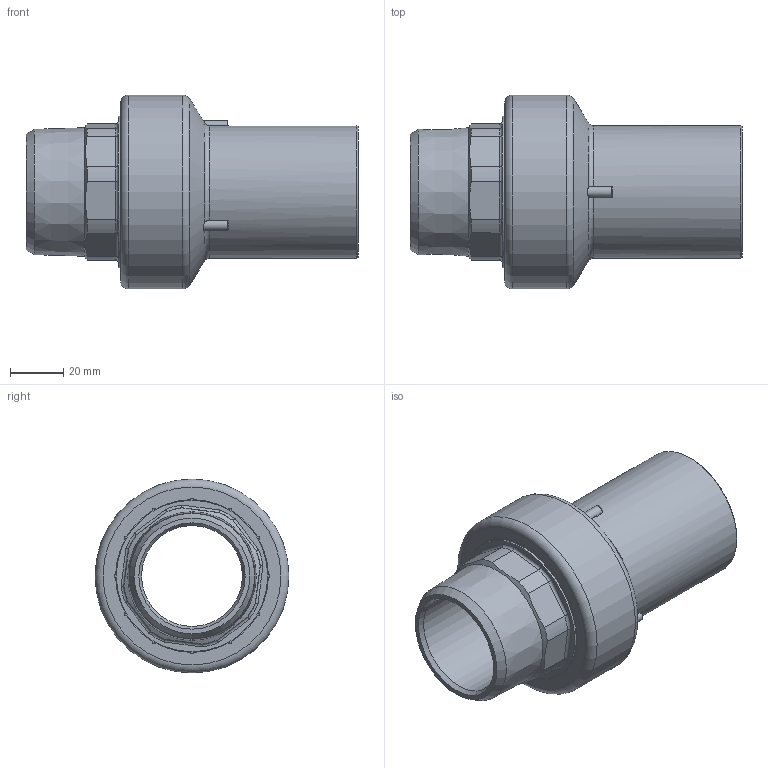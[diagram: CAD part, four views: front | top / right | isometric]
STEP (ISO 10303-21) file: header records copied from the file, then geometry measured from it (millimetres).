
FILE_DESCRIPTION(/* description */ ('Unknown'),/* implementation_level */ '2;1');
FILE_NAME(/* name */ 'RTOMP050C',/* time_stamp */ '2021-03-01T17:22:13+01:00',/* author */ ('Unknown'),/* organization */ ('Unknown'),/* preprocessor_version */ 'ST-DEVELOPER v16.7',/* originating_system */ 'Solid Edge',/* authorisation */ 'Unknown');
FILE_SCHEMA (('AUTOMOTIVE_DESIGN {1 0 10303 214 3 1 1}'));
Length unit declared in the file: millimetre
Products named in the file (3): RTOMP050C; Parte PE 050; IOM050C
Assembly tree (2 placements, depth 2):
  RTOMP050C
    Parte PE 050
    IOM050C
Bounding box: 125 x 73 x 73 mm (x, y, z)
Volume: 150680.6 mm3; surface area: 60102.9 mm2
Topology: 2 solids, 2 shells, 506 faces, 1385 edges, 894 vertices
Faces by surface type: cylinder 202, plane 122, bspline 75, cone 68, torus 27, sphere 12
Full cylindrical faces by diameter (mm): 38 x1, 40.8 x1, 44 x2, 48.3 x2, 48.5 x2, 50 x1, 56.5 x2, 57 x1, 61.5 x2, 61.587 x2, 73 x1
Entity records: 20807 total; most frequent: CARTESIAN_POINT 7415, ORIENTED_EDGE 2660, DIRECTION 2104, EDGE_CURVE 1330, AXIS2_PLACEMENT_3D 934, VERTEX_POINT 878, B_SPLINE_CURVE_WITH_KNOTS 594, EDGE_LOOP 560
